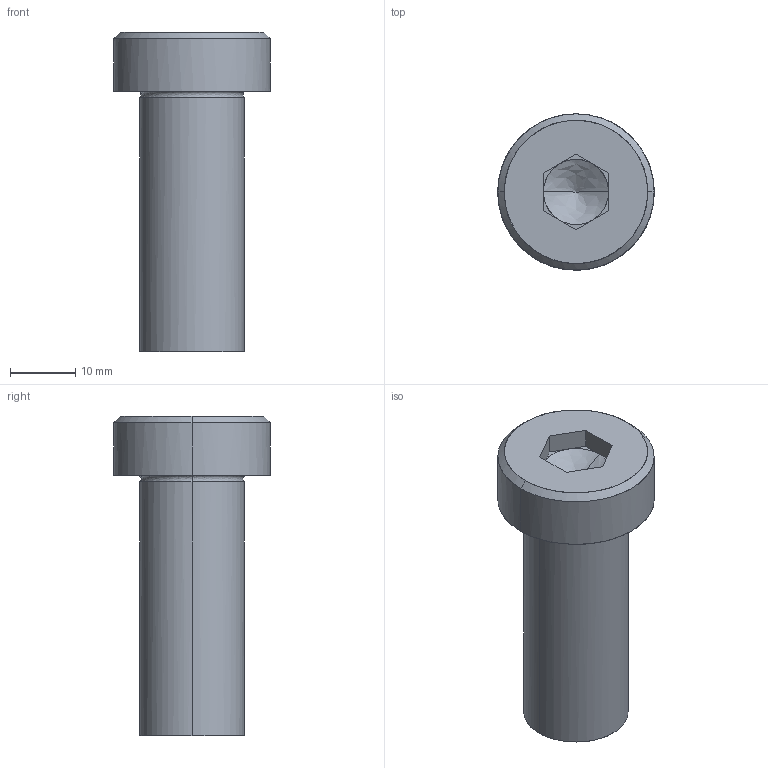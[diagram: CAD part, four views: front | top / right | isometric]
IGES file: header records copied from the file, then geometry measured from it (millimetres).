
Global section: file name: E:\UnigraphicsGraphicData\MISUMI_PRESS-PARTS\IGES\3d_sbtcn16-40_05147_r00.igs; native system: NX V5.0; preprocessor: UGS NX IGES V5.0; author: MISUMI; date: 20110105.162456; units: millimetre
Bounding box: 24 x 24 x 49 mm (x, y, z)
Surface area: 4357.1 mm2 (no closed solid volume)
Topology: 0 solids, 0 shells, 34 faces, 186 edges, 182 vertices
Faces by surface type: bspline 34
